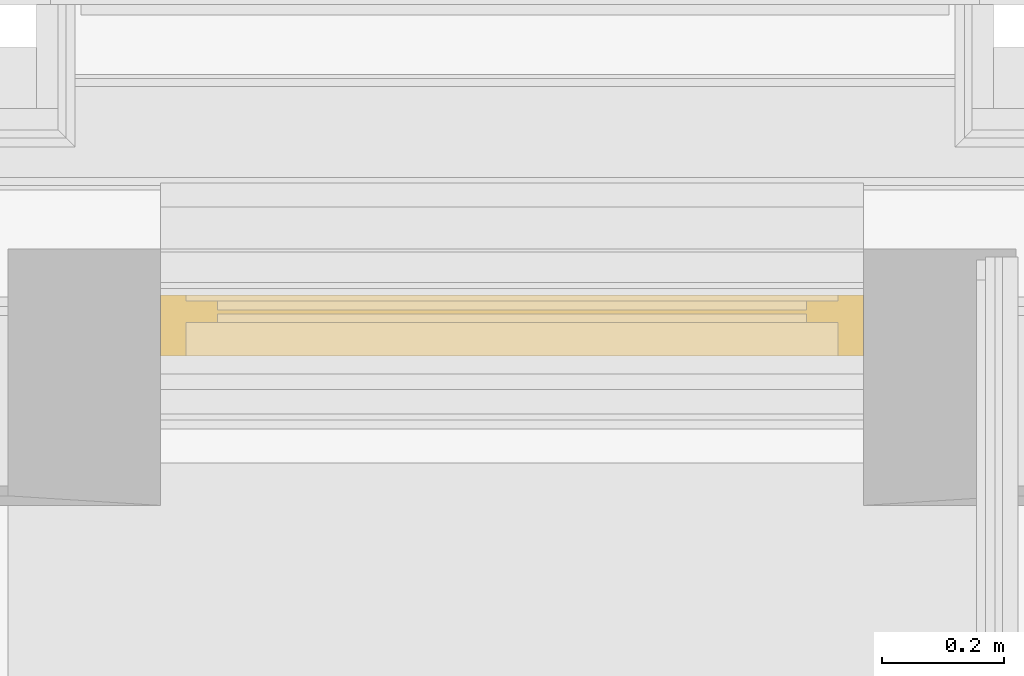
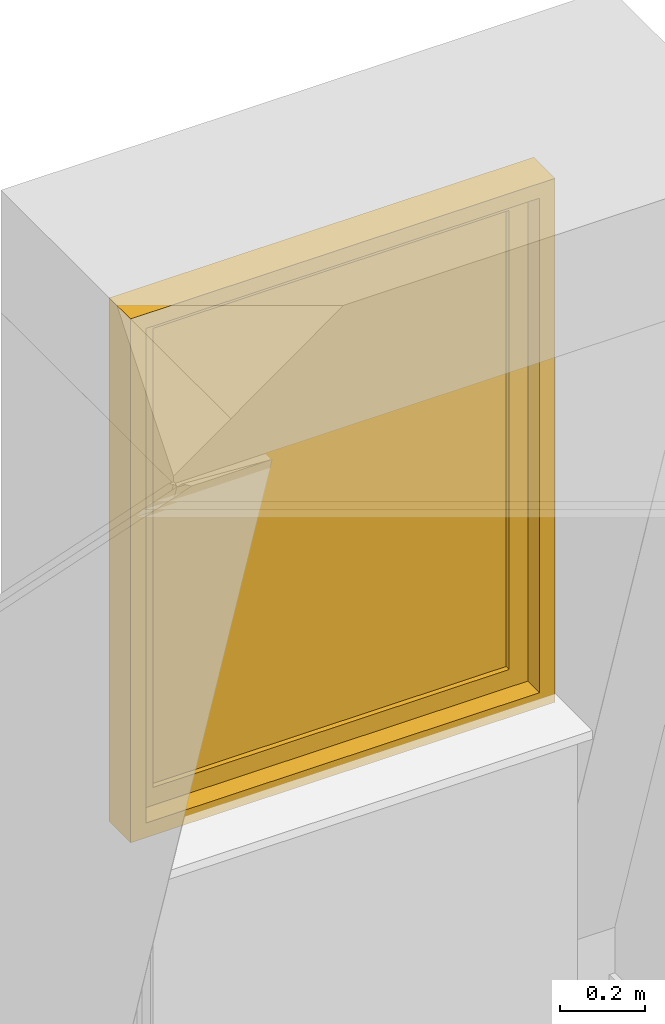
# One storey, part 138 of 169: 1 window.
"""IFC2X3 building model written with IfcOpenShell, lengths in metres."""

from ifc_helpers import new_model, entity, si_unit, converted_unit, derived_unit, money_unit, direction, frame, origin_with_axes, place, context, subcontext, project, spatial, faceted_brep, material, type_object, element, save


model = new_model("IFC2X3")

# Units and contexts
model_context = context("Model", 3, precision=1e-05, world=origin_with_axes(), true_north=direction((0.0, 1.0)))
body_context = subcontext(model_context, "Body", "Model", "MODEL_VIEW", scale=1.0)
ifc_project = project(units=[si_unit("LENGTHUNIT", "METRE"), si_unit("AREAUNIT", "SQUARE_METRE"), si_unit("VOLUMEUNIT", "CUBIC_METRE"), si_unit("ABSORBEDDOSEUNIT", "GRAY"), si_unit("AMOUNTOFSUBSTANCEUNIT", "MOLE"), si_unit("DOSEEQUIVALENTUNIT", "SIEVERT"), si_unit("ELECTRICCAPACITANCEUNIT", "FARAD"), si_unit("ELECTRICCHARGEUNIT", "COULOMB"), si_unit("ELECTRICCONDUCTANCEUNIT", "SIEMENS"), si_unit("ELECTRICCURRENTUNIT", "AMPERE"), si_unit("ELECTRICRESISTANCEUNIT", "OHM"), si_unit("ELECTRICVOLTAGEUNIT", "VOLT"), si_unit("ENERGYUNIT", "JOULE"), si_unit("FORCEUNIT", "NEWTON"), si_unit("FREQUENCYUNIT", "HERTZ"), si_unit("ILLUMINANCEUNIT", "LUX"), si_unit("INDUCTANCEUNIT", "HENRY"), si_unit("LUMINOUSFLUXUNIT", "LUMEN"), si_unit("LUMINOUSINTENSITYUNIT", "CANDELA"), si_unit("MAGNETICFLUXDENSITYUNIT", "TESLA"), si_unit("MAGNETICFLUXUNIT", "WEBER"), si_unit("MASSUNIT", "GRAM"), converted_unit("PLANEANGLEUNIT", "degree", entity("IfcReal", 0.0174532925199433), si_unit("PLANEANGLEUNIT", "RADIAN"), dimensions=[0, 0, 0, 0, 0, 0, 0]), si_unit("POWERUNIT", "WATT"), si_unit("PRESSUREUNIT", "PASCAL"), si_unit("RADIOACTIVITYUNIT", "BECQUEREL"), si_unit("SOLIDANGLEUNIT", "STERADIAN"), si_unit("THERMODYNAMICTEMPERATUREUNIT", "KELVIN"), si_unit("TIMEUNIT", "SECOND"), derived_unit("ACCELERATIONUNIT", [(si_unit("LENGTHUNIT", "METRE"), 1), (si_unit("TIMEUNIT", "SECOND"), -2)]), derived_unit("ANGULARVELOCITYUNIT", [(converted_unit("PLANEANGLEUNIT", "degree", entity("IfcReal", 0.0174532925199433), si_unit("PLANEANGLEUNIT", "RADIAN"), dimensions=[0, 0, 0, 0, 0, 0, 0]), 1), (si_unit("TIMEUNIT", "SECOND"), -1)]), derived_unit("CURVATUREUNIT", [(converted_unit("PLANEANGLEUNIT", "degree", entity("IfcReal", 0.0174532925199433), si_unit("PLANEANGLEUNIT", "RADIAN"), dimensions=[0, 0, 0, 0, 0, 0, 0]), 1), (si_unit("LENGTHUNIT", "METRE"), -1)]), derived_unit("DYNAMICVISCOSITYUNIT", [(si_unit("PRESSUREUNIT", "PASCAL"), 1), (si_unit("TIMEUNIT", "SECOND"), 1)]), derived_unit("HEATFLUXDENSITYUNIT", [(si_unit("POWERUNIT", "WATT"), 1), (si_unit("LENGTHUNIT", "METRE"), -2)]), derived_unit("HEATINGVALUEUNIT", [(si_unit("ENERGYUNIT", "JOULE"), 1), (si_unit("MASSUNIT", "GRAM"), -1)]), derived_unit("INTEGERCOUNTRATEUNIT", [(si_unit("TIMEUNIT", "SECOND"), -1)]), derived_unit("IONCONCENTRATIONUNIT", [(si_unit("MASSUNIT", "GRAM"), 1), (si_unit("VOLUMEUNIT", "CUBIC_METRE"), -1)]), derived_unit("ISOTHERMALMOISTURECAPACITYUNIT", [(si_unit("VOLUMEUNIT", "CUBIC_METRE"), 1), (si_unit("MASSUNIT", "GRAM"), -1)]), derived_unit("KINEMATICVISCOSITYUNIT", [(si_unit("AREAUNIT", "SQUARE_METRE"), 1), (si_unit("TIMEUNIT", "SECOND"), -1)]), derived_unit("LINEARFORCEUNIT", [(si_unit("FORCEUNIT", "NEWTON"), 1), (si_unit("LENGTHUNIT", "METRE"), -1)]), derived_unit("LINEARMOMENTUNIT", [(si_unit("FORCEUNIT", "NEWTON"), 1), (si_unit("LENGTHUNIT", "METRE"), -1)]), derived_unit("LINEARSTIFFNESSUNIT", [(si_unit("FORCEUNIT", "NEWTON"), 1), (si_unit("LENGTHUNIT", "METRE"), -1)]), derived_unit("LINEARVELOCITYUNIT", [(si_unit("LENGTHUNIT", "METRE"), 1), (si_unit("TIMEUNIT", "SECOND"), -1)]), derived_unit("LUMINOUSINTENSITYDISTRIBUTIONUNIT", [(si_unit("LUMINOUSINTENSITYUNIT", "CANDELA"), 1), (si_unit("LUMINOUSFLUXUNIT", "LUMEN"), -1)]), derived_unit("MASSDENSITYUNIT", [(si_unit("MASSUNIT", "GRAM"), 1), (si_unit("VOLUMEUNIT", "CUBIC_METRE"), -1)]), derived_unit("MASSFLOWRATEUNIT", [(si_unit("MASSUNIT", "GRAM"), 1), (si_unit("TIMEUNIT", "SECOND"), -1)]), derived_unit("MASSPERLENGTHUNIT", [(si_unit("MASSUNIT", "GRAM"), 1), (si_unit("LENGTHUNIT", "METRE"), -1)]), derived_unit("MODULUSOFELASTICITYUNIT", [(si_unit("FORCEUNIT", "NEWTON"), 1), (si_unit("AREAUNIT", "SQUARE_METRE"), -1)]), derived_unit("MODULUSOFLINEARSUBGRADEREACTIONUNIT", [(si_unit("FORCEUNIT", "NEWTON"), 1), (si_unit("LENGTHUNIT", "METRE"), -2)]), derived_unit("MODULUSOFROTATIONALSUBGRADEREACTIONUNIT", [(si_unit("FORCEUNIT", "NEWTON"), 1), (si_unit("LENGTHUNIT", "METRE"), 1)]), derived_unit("MODULUSOFSUBGRADEREACTIONUNIT", [(si_unit("FORCEUNIT", "NEWTON"), 1), (si_unit("VOLUMEUNIT", "CUBIC_METRE"), -1)]), derived_unit("MOISTUREDIFFUSIVITYUNIT", [(si_unit("VOLUMEUNIT", "CUBIC_METRE"), 1), (si_unit("TIMEUNIT", "SECOND"), -1)]), derived_unit("MOLECULARWEIGHTUNIT", [(si_unit("MASSUNIT", "GRAM"), 1), (si_unit("AMOUNTOFSUBSTANCEUNIT", "MOLE"), -1)]), derived_unit("PLANARFORCEUNIT", [(si_unit("FORCEUNIT", "NEWTON"), 1), (si_unit("LENGTHUNIT", "METRE"), -2)]), derived_unit("ROTATIONALFREQUENCYUNIT", [(si_unit("TIMEUNIT", "SECOND"), -1)]), derived_unit("ROTATIONALMASSUNIT", [(si_unit("MASSUNIT", "GRAM"), 1), (si_unit("LENGTHUNIT", "METRE"), 2)]), derived_unit("ROTATIONALSTIFFNESSUNIT", [(si_unit("FORCEUNIT", "NEWTON"), 1), (si_unit("LENGTHUNIT", "METRE"), 1), (converted_unit("PLANEANGLEUNIT", "degree", entity("IfcReal", 0.0174532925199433), si_unit("PLANEANGLEUNIT", "RADIAN"), dimensions=[0, 0, 0, 0, 0, 0, 0]), -1)]), derived_unit("SECTIONAREAINTEGRALUNIT", [(si_unit("LENGTHUNIT", "METRE"), 5)]), derived_unit("SECTIONMODULUSUNIT", [(si_unit("LENGTHUNIT", "METRE"), 3)]), derived_unit("SHEARMODULUSUNIT", [(si_unit("FORCEUNIT", "NEWTON"), 1), (si_unit("AREAUNIT", "SQUARE_METRE"), -1)]), derived_unit("SOUNDPOWERUNIT", [(si_unit("ENERGYUNIT", "JOULE"), 1), (si_unit("TIMEUNIT", "SECOND"), -1)]), derived_unit("SPECIFICHEATCAPACITYUNIT", [(si_unit("FORCEUNIT", "NEWTON"), 1), (si_unit("MASSUNIT", "GRAM"), -1), (si_unit("THERMODYNAMICTEMPERATUREUNIT", "KELVIN"), -1)]), derived_unit("TEMPERATUREGRADIENTUNIT", [(si_unit("THERMODYNAMICTEMPERATUREUNIT", "KELVIN"), 1), (si_unit("LENGTHUNIT", "METRE"), -1)]), derived_unit("THERMALADMITTANCEUNIT", [(si_unit("POWERUNIT", "WATT"), 1), (si_unit("AREAUNIT", "SQUARE_METRE"), -1), (si_unit("THERMODYNAMICTEMPERATUREUNIT", "KELVIN"), -1)]), derived_unit("THERMALCONDUCTANCEUNIT", [(si_unit("POWERUNIT", "WATT"), 1), (si_unit("LENGTHUNIT", "METRE"), -1), (si_unit("THERMODYNAMICTEMPERATUREUNIT", "KELVIN"), -1)]), derived_unit("THERMALEXPANSIONCOEFFICIENTUNIT", [(si_unit("THERMODYNAMICTEMPERATUREUNIT", "KELVIN"), -1)]), derived_unit("THERMALRESISTANCEUNIT", [(si_unit("AREAUNIT", "SQUARE_METRE"), 1), (si_unit("POWERUNIT", "WATT"), -1)]), derived_unit("THERMALTRANSMITTANCEUNIT", [(si_unit("POWERUNIT", "WATT"), 1), (si_unit("AREAUNIT", "SQUARE_METRE"), -1), (si_unit("THERMODYNAMICTEMPERATUREUNIT", "KELVIN"), -1)]), derived_unit("TORQUEUNIT", [(si_unit("FORCEUNIT", "NEWTON"), 1), (si_unit("LENGTHUNIT", "METRE"), 1)]), derived_unit("VAPORPERMEABILITYUNIT", [(si_unit("MASSUNIT", "GRAM"), 1), (si_unit("TIMEUNIT", "SECOND"), -1)]), derived_unit("VOLUMETRICFLOWRATEUNIT", [(si_unit("VOLUMEUNIT", "CUBIC_METRE"), 1), (si_unit("TIMEUNIT", "SECOND"), -1)]), derived_unit("WARPINGCONSTANTUNIT", [(si_unit("LENGTHUNIT", "METRE"), 6)]), derived_unit("WARPINGMOMENTUNIT", [(si_unit("FORCEUNIT", "NEWTON"), 1), (si_unit("LENGTHUNIT", "METRE"), 2)]), money_unit("GBP")], contexts=[model_context])

# Site, building, storey, space
site_placement = place(None, origin_with_axes())
site = spatial("IfcSite", under=ifc_project, at=site_placement, Name="Site", CompositionType="ELEMENT")
building_placement = place(site_placement, origin_with_axes())
building = spatial("IfcBuilding", under=site, at=building_placement, Name="Building01", CompositionType="ELEMENT")
storey_placement = place(building_placement, frame((0.0, 0.0, 5.15), z_axis=(0.0, 0.0, 1.0), x_axis=(1.0, 0.0, 0.0)))
storey = spatial("IfcBuildingStorey", under=building, at=storey_placement, Name="1F", CompositionType="ELEMENT", Elevation=5.15)
space_placement = place(storey_placement, frame((16.03844, 8.82, 9.86), z_axis=(0.0, 0.0, 1.0), x_axis=(0.0, -1.0, 0.0)))
space = spatial("IfcSpace", under=storey, at=space_placement, Name="23", CompositionType="ELEMENT", InteriorOrExteriorSpace="NOTDEFINED")

# Window
ifc_material = material(Name="A_BSUK_Windows")
window_style = type_object("IfcWindowStyle", Name="A-Awning", ConstructionType="NOTDEFINED", OperationType="USERDEFINED", ParameterTakesPrecedence=False, Sizeable=False)
window_placement = place(storey_placement, frame((20.590024, 14.350061, 10.83), z_axis=(0.0, 0.0, 1.0), x_axis=(-1.0, 0.0, 0.0)))
element("IfcWindow", 1, at=window_placement, inside=space, type_object=window_style, material=ifc_material, Name="4.22", ObjectType="A-Awning", OverallHeight=1.50000000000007, OverallWidth=1.15000000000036, context=body_context, shape_type="Brep", body=[
    faceted_brep([(-1.108, 0.0254, 0.042), (-0.042, 0.0254, 0.042), (-0.042, 0.1254, 0.042), (-1.108, 0.1254, 0.042), (-1.108, 0.0254, 1.458), (-1.108, 0.1254, 1.458), (-0.042, 0.0254, 1.458), (-0.042, 0.1254, 1.458), (0.0, 0.0254, 0.0), (0.0, 0.0254, 1.5), (-1.15, 0.0254, 1.5), (-1.15, 0.0254, 0.0), (0.0, 0.1254, 1.5), (-1.15, 0.1254, 1.5), (-1.15, 0.1254, 0.0), (0.0, 0.1254, 0.0)], [[[0, 1, 2, 3]], [[4, 0, 3, 5]], [[6, 4, 5, 7]], [[8, 9, 10, 11], [4, 6, 1, 0]], [[1, 6, 7, 2]], [[12, 13, 10, 9]], [[14, 15, 8, 11]], [[13, 14, 11, 10]], [[13, 12, 15, 14], [2, 7, 5, 3]], [[15, 12, 9, 8]]]),
    faceted_brep([(-1.0572, 0.0354, 0.0928), (-0.0928, 0.0354, 0.0928), (-0.0928, 0.0704, 0.0928), (-1.0572, 0.0704, 0.0928), (-1.0572, 0.0354, 1.4072), (-1.0572, 0.0704, 1.4072), (-0.0928, 0.0354, 1.4072), (-0.0928, 0.0704, 1.4072), (-1.108, 0.0704, 1.458), (-0.042, 0.0704, 1.458), (-0.042, 0.0704, 0.042), (-1.108, 0.0704, 0.042), (-1.108, 0.0354, 1.458), (-0.042, 0.0354, 1.458), (-0.042, 0.0354, 0.042), (-1.108, 0.0354, 0.042)], [[[0, 1, 2, 3]], [[4, 0, 3, 5]], [[6, 4, 5, 7]], [[8, 9, 10, 11], [2, 7, 5, 3]], [[9, 8, 12, 13]], [[10, 9, 13, 14]], [[11, 10, 14, 15]], [[8, 11, 15, 12]], [[14, 13, 12, 15], [4, 6, 1, 0]], [[1, 6, 7, 2]]]),
    faceted_brep([(-0.0928, 0.049725, 0.0928), (-0.0928, 0.056075, 0.0928), (-0.0928, 0.056075, 1.4072), (-0.0928, 0.049725, 1.4072), (-1.0572, 0.049725, 1.4072), (-1.0572, 0.056075, 1.4072), (-1.0572, 0.056075, 0.0928), (-1.0572, 0.049725, 0.0928)], [[[0, 1, 2, 3]], [[4, 5, 6, 7]], [[3, 2, 5, 4]], [[3, 4, 7, 0]], [[7, 6, 1, 0]], [[1, 6, 5, 2]]]),
])

save(model, "model.ifc")
